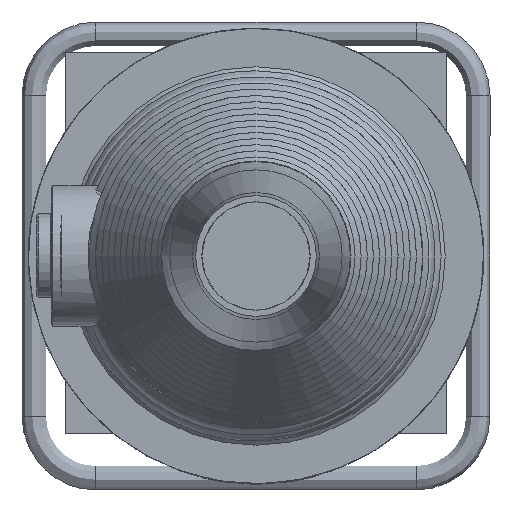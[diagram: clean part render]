
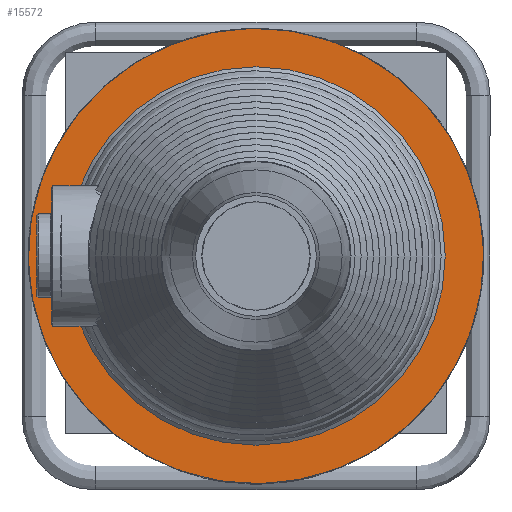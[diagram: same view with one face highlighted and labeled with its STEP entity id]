
A CAD part, left-side view. The second image highlights one B-rep face of the part: STEP entity #15572.
In plain terms, the highlighted conical face has half-angle 90 degrees and reference radius 84.659 mm.
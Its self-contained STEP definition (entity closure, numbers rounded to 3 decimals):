
#27=CONICAL_SURFACE('',#16430,84.659,90.);
#3570=FACE_BOUND('',#5477,.T.);
#4431=FACE_OUTER_BOUND('',#5476,.T.);
#5476=EDGE_LOOP('',(#13854));
#5477=EDGE_LOOP('',(#13855));
#6063=CIRCLE('',#16431,76.819);
#6064=CIRCLE('',#16432,92.5);
#7564=VERTEX_POINT('',#37282);
#7565=VERTEX_POINT('',#37284);
#9700=EDGE_CURVE('',#7564,#7564,#6063,.T.);
#9701=EDGE_CURVE('',#7565,#7565,#6064,.T.);
#13854=ORIENTED_EDGE('',*,*,#9700,.T.);
#13855=ORIENTED_EDGE('',*,*,#9701,.F.);
#15572=ADVANCED_FACE('',(#4431,#3570),#27,.F.);
#16430=AXIS2_PLACEMENT_3D('',#37281,#19004,#19005);
#16431=AXIS2_PLACEMENT_3D('',#37283,#19006,#19007);
#16432=AXIS2_PLACEMENT_3D('',#37285,#19008,#19009);
#19004=DIRECTION('center_axis',(-1.,0.,0.));
#19005=DIRECTION('ref_axis',(0.,-1.,0.));
#19006=DIRECTION('center_axis',(1.,0.,0.));
#19007=DIRECTION('ref_axis',(0.,0.,
-1.));
#19008=DIRECTION('center_axis',(1.,0.,0.));
#19009=DIRECTION('ref_axis',(0.,0.,
-1.));
#37281=CARTESIAN_POINT('Origin',(-314.652,0.,
0.));
#37282=CARTESIAN_POINT('',(-314.652,-76.819,0.));
#37283=CARTESIAN_POINT('Origin',(-314.652,0.,
0.));
#37284=CARTESIAN_POINT('',(-314.652,-92.5,0.));
#37285=CARTESIAN_POINT('Origin',(-314.652,0.,
0.));
